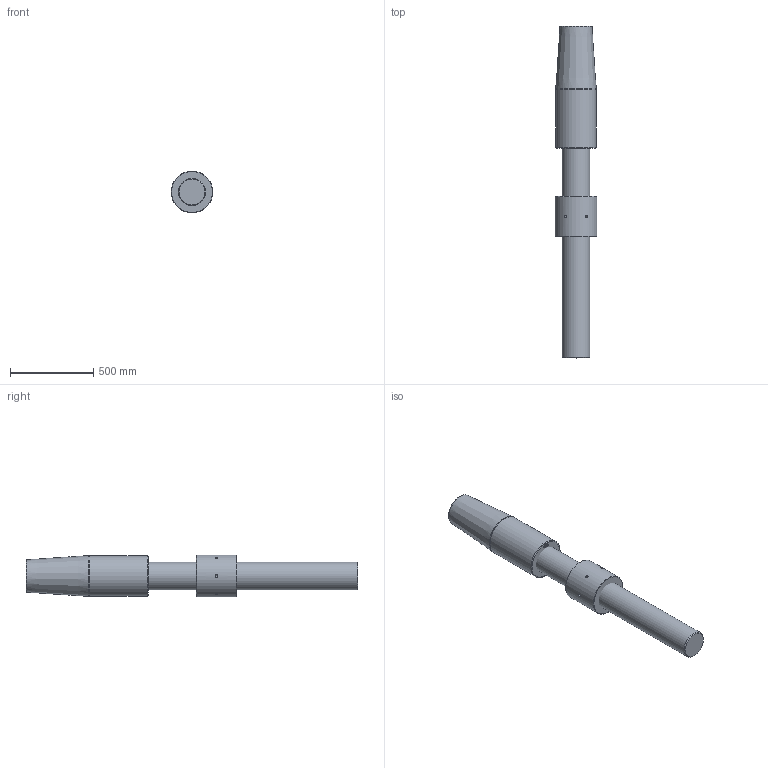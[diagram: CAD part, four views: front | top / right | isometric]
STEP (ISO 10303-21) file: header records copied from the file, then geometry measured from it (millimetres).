
FILE_DESCRIPTION(/* description */ (''),/* implementation_level */ '2;1');
FILE_NAME(/* name */ 'C:\Users\ranca\Desktop\CYM\ARRANGEMENT\CYM084 52 061 0.stp',/* time_stamp */ '2021-04-22T22:04:36+02:00',/* author */ ('ranca'),/* organization */ (''),/* preprocessor_version */ 'ST-DEVELOPER v16.13',/* originating_system */ 'Autodesk Inventor 2018',/* authorisation */ '');
FILE_SCHEMA (('AUTOMOTIVE_DESIGN { 1 0 10303 214 3 1 1 }'));
Length unit declared in the file: millimetre
Products named in the file (4): CYM084-52-061-0; CYM012-52-061-0_ROD; CYC084 52 065 0_CYL SOK_RH; CYM084-41-051-0
Assembly tree (3 placements, depth 2):
  CYM084-52-061-0
    CYM012-52-061-0_ROD
    CYC084 52 065 0_CYL SOK_RH
    CYM084-41-051-0
Bounding box: 250 x 1993 x 250 mm (x, y, z)
Volume: 74918510.8 mm3; surface area: 1714926.7 mm2
Topology: 3 solids, 3 shells, 532 faces, 1417 edges, 942 vertices
Faces by surface type: bspline 269, plane 241, cone 11, cylinder 9, torus 2
Full cylindrical faces by diameter (mm): 15 x6, 165 x1, 245 x1, 250 x1
Entity records: 17986 total; most frequent: CARTESIAN_POINT 6585, ORIENTED_EDGE 2776, DIRECTION 1401, EDGE_CURVE 1388, VERTEX_POINT 936, LINE 817, VECTOR 817, EDGE_LOOP 606
